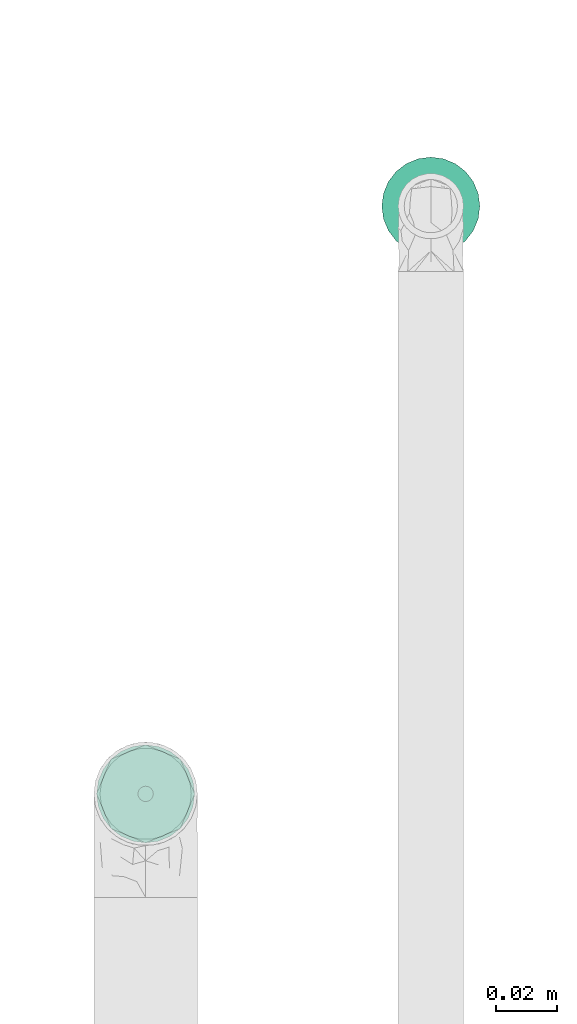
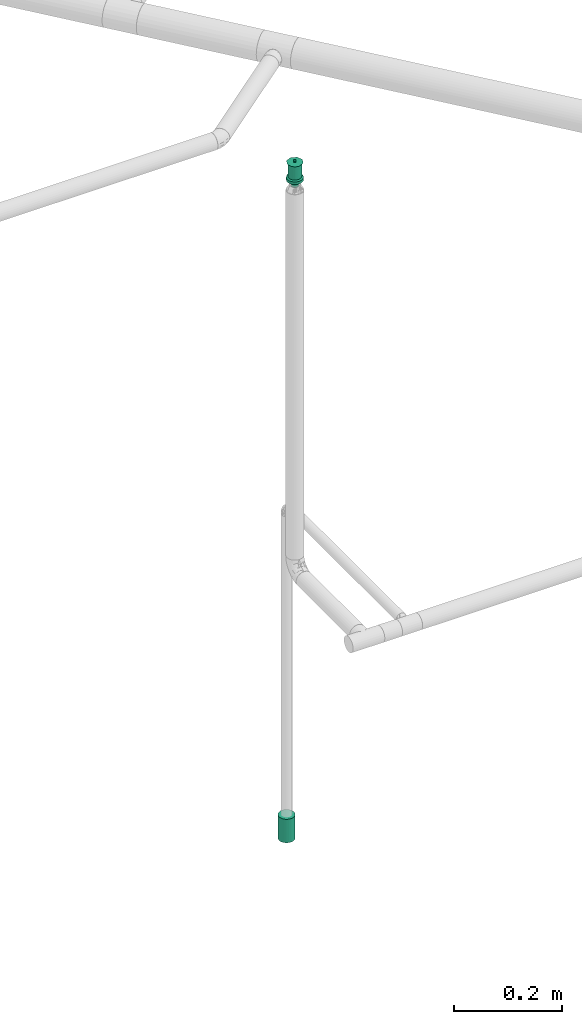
# One storey, part 69 of 94: 2 flow terminals.
"""IFC2X3 building model written with IfcOpenShell, lengths in millimetres."""

from ifc_helpers import new_model, entity, si_unit, converted_unit, derived_unit, direction, frame, origin_with_axes, place, context, subcontext, project, spatial, open_shell, surface_model, source, transform, mapped, type_object, element, save


model = new_model("IFC2X3")

# Units and contexts
model_context = context("Model", 3, precision=0.01, world=frame((0.0, 4.29681676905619e-09, 0.0)), true_north=direction((4.01073788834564e-13, 1.0)))
plan_context = context("Plan", 3, precision=0.01, world=frame((0.0, 4.29681676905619e-09, 0.0)), true_north=direction((4.01073788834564e-13, 1.0)))
body_context = subcontext(model_context, "Body", "Model", "MODEL_VIEW")
ifc_project = project(units=[converted_unit("PLANEANGLEUNIT", "DEGREE", entity("IfcPositiveLengthMeasure", 0.0174532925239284), si_unit("PLANEANGLEUNIT", "RADIAN"), dimensions=[0, 0, 0, 0, 0, 0, 0]), si_unit("AREAUNIT", "SQUARE_METRE"), si_unit("LENGTHUNIT", "METRE", prefix="MILLI"), si_unit("MASSUNIT", "GRAM", prefix="KILO"), si_unit("POWERUNIT", "WATT"), si_unit("PRESSUREUNIT", "PASCAL", prefix="KILO"), si_unit("FORCEUNIT", "NEWTON", prefix="KILO"), si_unit("ELECTRICVOLTAGEUNIT", "VOLT"), si_unit("ELECTRICCURRENTUNIT", "AMPERE"), si_unit("THERMODYNAMICTEMPERATUREUNIT", "DEGREE_CELSIUS"), si_unit("TIMEUNIT", "SECOND"), si_unit("VOLUMEUNIT", "CUBIC_METRE"), derived_unit("LINEARVELOCITYUNIT", [(si_unit("LENGTHUNIT", "METRE"), 1), (si_unit("TIMEUNIT", "SECOND"), -1)]), derived_unit("VOLUMETRICFLOWRATEUNIT", [(si_unit("VOLUMEUNIT", "CUBIC_METRE"), 1), (si_unit("TIMEUNIT", "SECOND"), -1)]), derived_unit("THERMALTRANSMITTANCEUNIT", [(si_unit("POWERUNIT", "WATT"), 1), (si_unit("THERMODYNAMICTEMPERATUREUNIT", "KELVIN"), -1), (si_unit("AREAUNIT", "SQUARE_METRE"), -1)]), derived_unit("SOUNDPRESSUREUNIT", [(si_unit("PRESSUREUNIT", "PASCAL"), 1)])], contexts=[model_context, plan_context])

# Site, building, storey
site_placement = place(None, frame((0.0, -4.29681676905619e-09, 0.0), z_axis=(0.0, 0.0, 1.0), x_axis=(1.0, 0.0, 0.0)))
site = spatial("IfcSite", under=ifc_project, at=site_placement, CompositionType="ELEMENT")
building_placement = place(site_placement, frame((0.0, 4.29681676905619e-09, 0.0), z_axis=(0.0, 0.0, 1.0), x_axis=(1.0, 0.0, 0.0)))
building = spatial("IfcBuilding", under=site, at=building_placement, Name="mc-building", CompositionType="ELEMENT")
storey_placement = place(building_placement, frame((0.0, 0.0, 210900.0), z_axis=(0.0, 0.0, 1.0), x_axis=(1.0, 0.0, 0.0)))
storey = spatial("IfcBuildingStorey", under=building, at=storey_placement, Name="Nivå F", CompositionType="ELEMENT", Elevation=210900.0)

# Flow terminals
fire_suppression_terminal_type_1 = type_object("IfcFireSuppressionTerminalType", Name="68DGR-STD-STÅENDE", PredefinedType="NOTDEFINED")
shared_shape_1 = source(origin_with_axes(), body_context, "Body", "SurfaceModel", [
    surface_model("IfcShellBasedSurfaceModel", [(3.36465, -12.55704, 51.0), (6.5, -11.25833, 51.0), (9.19239, -9.19239, 51.0), (12.55704, -3.36465, 51.0), (-11.25833, -6.5, 51.0), (11.25833, -6.5, 51.0), (-13.0, 0.0, 51.0), (0.0, -13.0, 51.0), (-6.5, -11.25833, 51.0), (-3.36465, -12.55704, 51.0), (-9.19239, -9.19239, 51.0), (-12.55704, -3.36465, 51.0), (13.0, 0.0, 51.0), (12.55704, 3.36465, 51.0), (11.25833, 6.5, 51.0), (9.19239, 9.19239, 51.0), (6.5, 11.25833, 51.0), (3.36465, 12.55704, 51.0), (0.0, 13.0, 51.0), (-3.36465, 12.55704, 51.0), (-12.55704, 3.36465, 51.0), (-9.19239, 9.19239, 51.0), (-11.25833, 6.5, 51.0), (-6.5, 11.25833, 51.0), (0.0, 13.0, 21.14766), (3.36465, 12.55704, 21.14766), (6.5, 11.25833, 21.14766), (-3.36465, 12.55704, 21.14766), (9.19239, 9.19239, 21.14766), (11.25833, 6.5, 21.14766), (12.55704, 3.36465, 21.14766), (-12.55704, 3.36465, 21.14766), (-11.25833, -6.5, 21.14766), (-9.19239, 9.19239, 21.14766), (-6.5, 11.25833, 21.14766), (-11.25833, 6.5, 21.14766), (-13.0, 0.0, 21.14766), (12.55704, -3.36465, 21.14766), (9.19239, -9.19239, 21.14766), (11.25833, -6.5, 21.14766), (6.5, -11.25833, 21.14766), (3.36465, -12.55704, 21.14766), (-6.5, -11.25833, 21.14766), (-9.19239, -9.19239, 21.14766), (-12.55704, -3.36465, 21.14766), (0.0, -13.0, 21.14766), (-3.36465, -12.55704, 21.14766), (13.0, 0.0, 21.14766), (7.24444, -1.94114, 0.1), (1.94114, -7.24444, 0.1), (3.75, -6.49519, 0.1), (5.3033, -5.3033, 0.1), (-5.3033, -5.3033, 0.1), (6.49519, -3.75, 0.1), (5.3033, 5.3033, 0.1), (0.0, -7.5, 0.1), (-3.75, -6.49519, 0.1), (-1.94114, -7.24444, 0.1), (-7.24444, -1.94114, 0.1), (-6.49519, -3.75, 0.1), (-7.24444, 1.94114, 0.1), (7.5, 0.0, 0.1), (6.49519, 3.75, 0.1), (-6.49519, 3.75, 0.1), (1.94114, 7.24444, 0.1), (0.0, 7.5, 0.1), (3.75, 6.49519, 0.1), (-7.5, 0.0, 0.1), (-5.3033, 5.3033, 0.1), (-1.94114, 7.24444, 0.1), (-3.75, 6.49519, 0.1), (7.24444, 1.94114, 0.1), (1.94114, 7.24444, -0.1), (-6.49519, 3.75, -0.1), (0.0, 7.5, -0.1), (5.3033, 5.3033, -0.1), (3.75, 6.49519, -0.1), (6.49519, 3.75, -0.1), (7.24444, 1.94114, -0.1), (-1.94114, 7.24444, -0.1), (-5.3033, 5.3033, -0.1), (-3.75, 6.49519, -0.1), (-7.24444, 1.94114, -0.1), (-7.24444, -1.94114, -0.1), (-7.5, 0.0, -0.1), (7.5, 0.0, -0.1), (7.24444, -1.94114, -0.1), (-5.3033, -5.3033, -0.1), (1.94114, -7.24444, -0.1), (6.49519, -3.75, -0.1), (5.3033, -5.3033, -0.1), (3.75, -6.49519, -0.1), (-6.49519, -3.75, -0.1), (-3.75, -6.49519, -0.1), (0.0, -7.5, -0.1), (-1.94114, -7.24444, -0.1), (0.0, -2.5, 51.0), (-2.5, 0.0, 51.0), (0.0, 2.5, 51.0), (2.5, 0.0, 51.0), (0.0, -16.0, 53.0), (11.31371, -11.31371, 53.0), (-11.31371, -11.31371, 53.0), (-16.0, 0.0, 53.0), (16.0, 0.0, 53.0), (11.31371, 11.31371, 53.0), (0.0, 16.0, 53.0), (-11.31371, 11.31371, 53.0), (1.25, -2.16506, 57.0), (0.0, -2.5, 57.0), (0.64705, -2.41481, 57.0), (2.41481, -0.64705, 57.0), (1.76777, -1.76777, 57.0), (-2.41481, -0.64705, 57.0), (-2.5, 0.0, 57.0), (2.16506, -1.25, 57.0), (-1.25, -2.16506, 57.0), (-0.64705, -2.41481, 57.0), (-1.76777, -1.76777, 57.0), (-2.16506, -1.25, 57.0), (2.5, 0.0, 57.0), (2.41481, 0.64705, 57.0), (2.16506, 1.25, 57.0), (1.76777, 1.76777, 57.0), (0.64705, 2.41481, 57.0), (1.25, 2.16506, 57.0), (-1.76777, 1.76777, 57.0), (0.0, 2.5, 57.0), (-2.16506, 1.25, 57.0), (-2.41481, 0.64705, 57.0), (-0.64705, 2.41481, 57.0), (-1.25, 2.16506, 57.0), (1.25, 2.16506, 51.0), (1.76777, 1.76777, 51.0), (1.15, 1.99186, 51.0), (0.59528, 2.22163, 51.0), (0.64705, 2.41481, 51.0), (0.0, 2.3, 51.0), (1.62635, 1.62635, 51.0), (2.41481, 0.64705, 51.0), (2.3, 0.0, 51.0), (2.22163, 0.59528, 51.0), (2.16506, 1.25, 51.0), (1.99186, 1.15, 51.0), (-0.59528, 2.22163, 51.0), (-0.64705, 2.41481, 51.0), (-1.15, 1.99186, 51.0), (-1.76777, 1.76777, 51.0), (-1.25, 2.16506, 51.0), (-1.62635, 1.62635, 51.0), (-1.99186, 1.15, 51.0), (-2.16506, 1.25, 51.0), (-2.22163, 0.59528, 51.0), (-2.41481, 0.64705, 51.0), (-2.3, 0.0, 51.0), (2.41481, -0.64705, 51.0), (2.22163, -0.59528, 51.0), (1.99186, -1.15, 51.0), (2.16506, -1.25, 51.0), (1.62635, -1.62635, 51.0), (1.76777, -1.76777, 51.0), (1.25, -2.16506, 51.0), (1.15, -1.99186, 51.0), (0.59528, -2.22163, 51.0), (0.64705, -2.41481, 51.0), (0.0, -2.3, 51.0), (-2.16506, -1.25, 51.0), (-1.99186, -1.15, 51.0), (-1.76777, -1.76777, 51.0), (-1.62635, -1.62635, 51.0), (-2.41481, -0.64705, 51.0), (-2.22163, -0.59528, 51.0), (-0.59528, -2.22163, 51.0), (-0.64705, -2.41481, 51.0), (-1.15, -1.99186, 51.0), (-1.25, -2.16506, 51.0), (1.62635, -1.62635, 56.8), (1.15, -1.99186, 56.8), (0.59528, -2.22163, 56.8), (0.0, -2.3, 56.8), (2.22163, 0.59528, 56.8), (1.99186, -1.15, 56.8), (2.22163, -0.59528, 56.8), (-0.59528, -2.22163, 56.8), (-1.15, -1.99186, 56.8), (-1.62635, -1.62635, 56.8), (-1.99186, -1.15, 56.8), (-2.22163, -0.59528, 56.8), (-1.99186, 1.15, 56.8), (2.3, 0.0, 56.8), (1.62635, 1.62635, 56.8), (1.99186, 1.15, 56.8), (1.15, 1.99186, 56.8), (0.0, 2.3, 56.8), (0.59528, 2.22163, 56.8), (-2.22163, 0.59528, 56.8), (-2.3, 0.0, 56.8), (-1.15, 1.99186, 56.8), (-0.59528, 2.22163, 56.8), (-1.62635, 1.62635, 56.8), (4.1411, -15.45481, 19.0), (8.0, -13.85641, 19.0), (11.31371, -11.31371, 19.0), (-8.0, -13.85641, 19.0), (15.45481, -4.1411, 19.0), (16.0, 0.0, 19.0), (13.85641, -8.0, 19.0), (0.0, -16.0, 19.0), (-4.1411, -15.45481, 19.0), (-13.85641, -8.0, 19.0), (-11.31371, -11.31371, 19.0), (-15.45481, -4.1411, 19.0), (15.45481, 4.1411, 19.0), (13.85641, 8.0, 19.0), (11.31371, 11.31371, 19.0), (-4.1411, 15.45481, 19.0), (8.0, 13.85641, 19.0), (4.1411, 15.45481, 19.0), (0.0, 16.0, 19.0), (-13.85641, 8.0, 19.0), (-15.45481, 4.1411, 19.0), (-16.0, 0.0, 19.0), (-11.31371, 11.31371, 19.0), (-8.0, 13.85641, 19.0), (0.0, 16.0, 13.0), (4.1411, 15.45481, 13.0), (8.0, 13.85641, 13.0), (-4.1411, 15.45481, 13.0), (11.31371, 11.31371, 13.0), (13.85641, 8.0, 13.0), (15.45481, 4.1411, 13.0), (-15.45481, -4.1411, 13.0), (-11.31371, 11.31371, 13.0), (-8.0, 13.85641, 13.0), (-13.85641, 8.0, 13.0), (-15.45481, 4.1411, 13.0), (-16.0, 0.0, 13.0), (4.1411, -15.45481, 13.0), (16.0, 0.0, 13.0), (15.45481, -4.1411, 13.0), (13.85641, -8.0, 13.0), (11.31371, -11.31371, 13.0), (8.0, -13.85641, 13.0), (-8.0, -13.85641, 13.0), (-13.85641, -8.0, 13.0), (-11.31371, -11.31371, 13.0), (0.0, -16.0, 13.0), (-4.1411, -15.45481, 13.0), (7.24444, -1.94114, 13.0), (1.94114, -7.24444, 13.0), (3.75, -6.49519, 13.0), (5.3033, -5.3033, 13.0), (-5.3033, -5.3033, 13.0), (6.49519, -3.75, 13.0), (5.3033, 5.3033, 13.0), (0.0, -7.5, 13.0), (-3.75, -6.49519, 13.0), (-1.94114, -7.24444, 13.0), (-7.24444, -1.94114, 13.0), (-6.49519, -3.75, 13.0), (-7.24444, 1.94114, 13.0), (7.5, 0.0, 13.0), (6.49519, 3.75, 13.0), (-6.49519, 3.75, 13.0), (1.94114, 7.24444, 13.0), (0.0, 7.5, 13.0), (3.75, 6.49519, 13.0), (-7.5, 0.0, 13.0), (-5.3033, 5.3033, 13.0), (-1.94114, 7.24444, 13.0), (-3.75, 6.49519, 13.0), (7.24444, 1.94114, 13.0), (3.75, 6.49519, 0.0), (5.3033, 5.3033, 0.0), (3.65, 6.32199, 0.0), (1.88938, 7.05126, 0.0), (0.0, 7.3, 0.0), (1.94114, 7.24444, 0.0), (0.0, 7.5, 0.0), (5.16188, 5.16188, 0.0), (7.24444, 1.94114, 0.0), (7.3, 0.0, 0.0), (7.05126, 1.88938, 0.0), (7.5, 0.0, 0.0), (6.49519, 3.75, 0.0), (6.32199, 3.65, 0.0), (-1.88938, 7.05126, 0.0), (-1.94114, 7.24444, 0.0), (-3.65, 6.32199, 0.0), (-5.3033, 5.3033, 0.0), (-3.75, 6.49519, 0.0), (-5.16188, 5.16188, 0.0), (-6.32199, 3.65, 0.0), (-6.49519, 3.75, 0.0), (-7.05126, 1.88938, 0.0), (-7.24444, 1.94114, 0.0), (-7.3, 0.0, 0.0), (-7.5, 0.0, 0.0), (7.24444, -1.94114, 0.0), (7.05126, -1.88938, 0.0), (6.32199, -3.65, 0.0), (6.49519, -3.75, 0.0), (5.16188, -5.16188, 0.0), (5.3033, -5.3033, 0.0), (3.75, -6.49519, 0.0), (3.65, -6.32199, 0.0), (1.88938, -7.05126, 0.0), (1.94114, -7.24444, 0.0), (0.0, -7.3, 0.0), (0.0, -7.5, 0.0), (-6.49519, -3.75, 0.0), (-6.32199, -3.65, 0.0), (-5.3033, -5.3033, 0.0), (-5.16188, -5.16188, 0.0), (-7.24444, -1.94114, 0.0), (-7.05126, -1.88938, 0.0), (-1.88938, -7.05126, 0.0), (-1.94114, -7.24444, 0.0), (-3.65, -6.32199, 0.0), (-3.75, -6.49519, 0.0), (1.88938, -7.05126, 12.8), (0.0, -7.3, 12.8), (3.65, -6.32199, 12.8), (5.16188, -5.16188, 12.8), (6.32199, -3.65, 12.8), (7.05126, 1.88938, 12.8), (7.05126, -1.88938, 12.8), (-5.16188, -5.16188, 12.8), (-1.88938, -7.05126, 12.8), (-3.65, -6.32199, 12.8), (-6.32199, -3.65, 12.8), (-7.05126, -1.88938, 12.8), (0.0, 7.3, 12.8), (7.3, 0.0, 12.8), (6.32199, 3.65, 12.8), (5.16188, 5.16188, 12.8), (3.65, 6.32199, 12.8), (1.88938, 7.05126, 12.8), (-6.32199, 3.65, 12.8), (-7.05126, 1.88938, 12.8), (-7.3, 0.0, 12.8), (-3.65, 6.32199, 12.8), (-1.88938, 7.05126, 12.8), (-5.16188, 5.16188, 12.8)], [open_shell([[[0, 1, 2]], [[0, 2, 3]], [[0, 3, 4]], [[3, 2, 5]], [[6, 4, 3]], [[7, 8, 9]], [[7, 0, 8]], [[8, 4, 10]], [[0, 4, 8]], [[4, 6, 11]], [[6, 3, 12]], [[13, 14, 15]], [[6, 13, 15]], [[16, 17, 18]], [[15, 16, 19]], [[18, 19, 16]], [[20, 21, 22]], [[20, 6, 15]], [[21, 19, 23]], [[19, 21, 20]], [[15, 19, 20]], [[13, 6, 12]], [[24, 25, 26]], [[27, 24, 26]], [[28, 29, 30]], [[26, 28, 31]], [[28, 32, 31]], [[27, 33, 34]], [[33, 27, 31]], [[33, 31, 35]], [[27, 26, 31]], [[31, 32, 36]], [[32, 28, 30]], [[32, 30, 37]], [[38, 37, 39]], [[38, 40, 41]], [[38, 41, 37]], [[32, 37, 41]], [[32, 42, 43]], [[44, 36, 32]], [[42, 45, 46]], [[42, 32, 41]], [[45, 42, 41]], [[30, 47, 37]], [[4, 32, 43]], [[8, 42, 46]], [[43, 42, 10]], [[9, 46, 45]], [[36, 11, 6]], [[11, 36, 44]], [[11, 44, 4]], [[44, 32, 4]], [[43, 10, 4]], [[8, 10, 42]], [[46, 9, 8]], [[45, 7, 9]], [[0, 41, 40]], [[38, 1, 40]], [[5, 39, 37]], [[38, 39, 2]], [[3, 37, 47]], [[41, 0, 7]], [[40, 1, 0]], [[38, 2, 1]], [[39, 5, 2]], [[3, 5, 37]], [[47, 12, 3]], [[41, 7, 45]], [[30, 13, 47]], [[29, 14, 30]], [[25, 24, 17]], [[15, 29, 28]], [[30, 14, 13]], [[13, 12, 47]], [[16, 26, 17]], [[16, 15, 28]], [[26, 25, 17]], [[15, 14, 29]], [[28, 26, 16]], [[24, 18, 17]], [[19, 27, 34]], [[33, 23, 34]], [[22, 35, 31]], [[33, 35, 21]], [[20, 31, 36]], [[27, 19, 18]], [[34, 23, 19]], [[33, 21, 23]], [[35, 22, 21]], [[20, 22, 31]], [[36, 6, 20]], [[27, 18, 24]], [[48, 49, 50]], [[48, 50, 51]], [[49, 48, 52]], [[48, 51, 53]], [[54, 52, 48]], [[55, 56, 57]], [[56, 55, 52]], [[52, 58, 59]], [[52, 55, 49]], [[52, 60, 58]], [[54, 48, 61]], [[62, 54, 61]], [[54, 63, 52]], [[64, 65, 54]], [[64, 54, 66]], [[63, 54, 65]], [[63, 60, 52]], [[67, 58, 60]], [[68, 69, 70]], [[69, 68, 63]], [[69, 63, 65]], [[71, 62, 61]], [[72, 73, 74]], [[75, 72, 76]], [[75, 77, 78]], [[72, 75, 73]], [[78, 73, 75]], [[79, 80, 81]], [[80, 79, 73]], [[74, 73, 79]], [[78, 82, 73]], [[82, 83, 84]], [[82, 78, 85]], [[86, 87, 85]], [[88, 86, 89]], [[90, 91, 88]], [[90, 88, 89]], [[87, 86, 88]], [[83, 87, 92]], [[83, 85, 87]], [[93, 94, 95]], [[94, 93, 87]], [[88, 94, 87]], [[85, 83, 82]], [[83, 58, 84]], [[92, 59, 83]], [[56, 87, 93]], [[92, 87, 52]], [[57, 93, 95]], [[83, 59, 58]], [[58, 67, 84]], [[57, 56, 93]], [[52, 87, 56]], [[52, 59, 92]], [[55, 57, 95]], [[95, 94, 55]], [[88, 49, 94]], [[91, 50, 88]], [[53, 90, 89]], [[91, 90, 51]], [[48, 89, 86]], [[91, 51, 50]], [[50, 49, 88]], [[61, 48, 86]], [[53, 89, 48]], [[53, 51, 90]], [[85, 61, 86]], [[94, 49, 55]], [[78, 71, 85]], [[77, 62, 78]], [[66, 75, 76]], [[77, 75, 54]], [[64, 76, 72]], [[78, 62, 71]], [[71, 61, 85]], [[64, 66, 76]], [[54, 75, 66]], [[54, 62, 77]], [[65, 64, 72]], [[72, 74, 65]], [[79, 69, 74]], [[81, 70, 79]], [[63, 80, 73]], [[81, 80, 68]], [[60, 73, 82]], [[81, 68, 70]], [[70, 69, 79]], [[67, 60, 82]], [[63, 73, 60]], [[63, 68, 80]], [[84, 67, 82]], [[74, 69, 65]], [[96, 97, 98]], [[98, 99, 96]], [[100, 101, 102]], [[103, 102, 101]], [[101, 104, 103]], [[104, 105, 106]], [[107, 103, 106]], [[106, 103, 104]], [[99, 98, 105]], [[105, 104, 99]], [[98, 106, 105]], [[98, 107, 106]], [[107, 98, 97]], [[103, 107, 97]], [[97, 96, 102]], [[102, 103, 97]], [[96, 100, 102]], [[96, 101, 100]], [[101, 96, 99]], [[104, 101, 99]], [[108, 109, 110]], [[111, 108, 112]], [[113, 108, 114]], [[111, 112, 115]], [[108, 111, 114]], [[109, 116, 117]], [[116, 109, 118]], [[118, 113, 119]], [[118, 109, 108]], [[108, 113, 118]], [[111, 120, 114]], [[121, 122, 123]], [[114, 121, 123]], [[114, 123, 124]], [[124, 123, 125]], [[126, 124, 127]], [[124, 128, 129]], [[129, 114, 124]], [[126, 130, 131]], [[128, 124, 126]], [[130, 126, 127]], [[121, 114, 120]], [[132, 133, 134]], [[132, 134, 135]], [[136, 135, 137]], [[135, 136, 132]], [[136, 137, 98]], [[134, 133, 138]], [[139, 140, 141]], [[140, 139, 99]], [[139, 141, 142]], [[138, 142, 143]], [[142, 138, 133]], [[143, 142, 141]], [[98, 144, 145]], [[98, 137, 144]], [[145, 144, 146]], [[147, 148, 149]], [[146, 148, 145]], [[149, 148, 146]], [[150, 151, 147]], [[151, 150, 152]], [[150, 147, 149]], [[153, 152, 154]], [[152, 153, 151]], [[153, 154, 97]], [[99, 155, 156]], [[156, 155, 157]], [[157, 158, 159]], [[158, 157, 155]], [[159, 158, 160]], [[160, 161, 162]], [[162, 161, 163]], [[163, 164, 165]], [[164, 163, 161]], [[165, 164, 96]], [[162, 159, 160]], [[166, 167, 168]], [[168, 167, 169]], [[167, 166, 170]], [[97, 171, 170]], [[170, 171, 167]], [[97, 154, 171]], [[172, 96, 173]], [[172, 173, 174]], [[169, 175, 168]], [[175, 169, 174]], [[175, 174, 173]], [[165, 96, 172]], [[156, 140, 99]], [[170, 113, 97]], [[166, 119, 170]], [[116, 168, 175]], [[166, 168, 118]], [[117, 175, 173]], [[170, 119, 113]], [[113, 114, 97]], [[117, 116, 175]], [[118, 168, 116]], [[118, 119, 166]], [[109, 117, 173]], [[173, 96, 109]], [[164, 110, 96]], [[161, 108, 164]], [[115, 160, 158]], [[161, 160, 112]], [[111, 158, 155]], [[161, 112, 108]], [[108, 110, 164]], [[120, 111, 155]], [[115, 158, 111]], [[115, 112, 160]], [[99, 120, 155]], [[96, 110, 109]], [[139, 121, 99]], [[142, 122, 139]], [[125, 133, 132]], [[142, 133, 123]], [[124, 132, 136]], [[139, 122, 121]], [[121, 120, 99]], [[124, 125, 132]], [[123, 133, 125]], [[123, 122, 142]], [[127, 124, 136]], [[136, 98, 127]], [[145, 130, 98]], [[148, 131, 145]], [[128, 147, 151]], [[148, 147, 126]], [[129, 151, 153]], [[148, 126, 131]], [[131, 130, 145]], [[114, 129, 153]], [[128, 151, 129]], [[128, 126, 147]], [[97, 114, 153]], [[98, 130, 127]], [[176, 177, 178]], [[176, 178, 179]], [[180, 176, 179]], [[181, 176, 182]], [[180, 182, 176]], [[183, 184, 179]], [[185, 179, 184]], [[186, 187, 185]], [[185, 187, 188]], [[179, 185, 188]], [[189, 182, 180]], [[190, 191, 180]], [[192, 190, 180]], [[193, 194, 192]], [[180, 193, 192]], [[188, 193, 180]], [[195, 188, 196]], [[196, 188, 187]], [[197, 198, 199]], [[188, 199, 198]], [[188, 198, 193]], [[180, 179, 188]], [[154, 187, 171]], [[171, 186, 167]], [[174, 169, 184]], [[185, 169, 167]], [[172, 174, 183]], [[187, 186, 171]], [[154, 196, 187]], [[174, 184, 183]], [[184, 169, 185]], [[167, 186, 185]], [[172, 183, 179]], [[179, 165, 172]], [[165, 178, 163]], [[163, 177, 162]], [[157, 159, 181]], [[176, 159, 162]], [[156, 157, 182]], [[177, 176, 162]], [[163, 178, 177]], [[156, 182, 189]], [[182, 157, 181]], [[159, 176, 181]], [[156, 189, 140]], [[179, 178, 165]], [[140, 180, 141]], [[141, 191, 143]], [[134, 138, 192]], [[190, 138, 143]], [[135, 134, 194]], [[180, 191, 141]], [[140, 189, 180]], [[134, 192, 194]], [[192, 138, 190]], [[143, 191, 190]], [[135, 194, 193]], [[193, 137, 135]], [[137, 198, 144]], [[144, 197, 146]], [[150, 149, 188]], [[199, 149, 146]], [[152, 150, 195]], [[197, 199, 146]], [[144, 198, 197]], [[152, 195, 196]], [[195, 150, 188]], [[149, 199, 188]], [[152, 196, 154]], [[193, 198, 137]], [[200, 201, 202]], [[203, 200, 202]], [[204, 205, 202]], [[204, 202, 206]], [[203, 202, 205]], [[207, 203, 208]], [[207, 200, 203]], [[203, 209, 210]], [[209, 203, 211]], [[205, 211, 203]], [[205, 212, 211]], [[212, 213, 214]], [[215, 212, 214]], [[216, 217, 218]], [[214, 216, 215]], [[218, 215, 216]], [[211, 219, 220]], [[221, 211, 220]], [[222, 215, 223]], [[215, 222, 219]], [[219, 211, 215]], [[211, 212, 215]], [[224, 225, 226]], [[227, 224, 226]], [[228, 229, 230]], [[227, 226, 228]], [[227, 228, 231]], [[227, 232, 233]], [[232, 227, 234]], [[234, 231, 235]], [[231, 234, 227]], [[235, 231, 236]], [[228, 230, 231]], [[237, 238, 239]], [[237, 239, 240]], [[241, 242, 237]], [[241, 237, 240]], [[238, 237, 243]], [[244, 243, 245]], [[243, 244, 231]], [[243, 246, 247]], [[243, 231, 238]], [[237, 246, 243]], [[238, 231, 230]], [[231, 211, 236]], [[244, 209, 231]], [[203, 245, 243]], [[244, 245, 210]], [[208, 243, 247]], [[231, 209, 211]], [[211, 221, 236]], [[208, 203, 243]], [[210, 245, 203]], [[210, 209, 244]], [[207, 208, 247]], [[247, 246, 207]], [[237, 200, 246]], [[242, 201, 237]], [[206, 241, 240]], [[242, 241, 202]], [[204, 240, 239]], [[242, 202, 201]], [[201, 200, 237]], [[205, 204, 239]], [[206, 240, 204]], [[206, 202, 241]], [[238, 205, 239]], [[246, 200, 207]], [[230, 212, 238]], [[229, 213, 230]], [[216, 228, 226]], [[229, 228, 214]], [[217, 226, 225]], [[230, 213, 212]], [[212, 205, 238]], [[217, 216, 226]], [[214, 228, 216]], [[214, 213, 229]], [[218, 217, 225]], [[225, 224, 218]], [[227, 215, 224]], [[233, 223, 227]], [[219, 232, 234]], [[233, 232, 222]], [[220, 234, 235]], [[233, 222, 223]], [[223, 215, 227]], [[221, 220, 235]], [[219, 234, 220]], [[219, 222, 232]], [[236, 221, 235]], [[224, 215, 218]], [[248, 249, 250]], [[248, 250, 251]], [[249, 248, 252]], [[248, 251, 253]], [[254, 252, 248]], [[255, 256, 257]], [[256, 255, 252]], [[252, 258, 259]], [[252, 255, 249]], [[252, 260, 258]], [[254, 248, 261]], [[262, 254, 261]], [[254, 263, 252]], [[264, 265, 254]], [[264, 254, 266]], [[263, 254, 265]], [[263, 260, 252]], [[267, 258, 260]], [[268, 269, 270]], [[269, 268, 263]], [[269, 263, 265]], [[271, 262, 261]], [[272, 273, 274]], [[272, 274, 275]], [[276, 277, 275]], [[277, 276, 278]], [[275, 277, 272]], [[274, 273, 279]], [[280, 281, 282]], [[281, 280, 283]], [[280, 282, 284]], [[279, 284, 285]], [[284, 279, 273]], [[285, 284, 282]], [[278, 286, 287]], [[287, 286, 288]], [[289, 290, 291]], [[288, 290, 287]], [[288, 291, 290]], [[278, 276, 286]], [[292, 293, 289]], [[293, 292, 294]], [[292, 289, 291]], [[295, 294, 296]], [[294, 295, 293]], [[295, 296, 297]], [[283, 298, 299]], [[299, 298, 300]], [[300, 301, 302]], [[301, 300, 298]], [[302, 301, 303]], [[303, 304, 305]], [[305, 304, 306]], [[306, 307, 308]], [[307, 306, 304]], [[308, 307, 309]], [[305, 302, 303]], [[310, 311, 312]], [[312, 311, 313]], [[311, 310, 314]], [[297, 315, 314]], [[314, 315, 311]], [[297, 296, 315]], [[316, 309, 317]], [[316, 317, 318]], [[313, 319, 312]], [[313, 318, 319]], [[319, 318, 317]], [[308, 309, 316]], [[299, 281, 283]], [[314, 258, 297]], [[310, 259, 314]], [[256, 312, 319]], [[310, 312, 252]], [[257, 319, 317]], [[314, 259, 258]], [[258, 267, 297]], [[257, 256, 319]], [[252, 312, 256]], [[252, 259, 310]], [[255, 257, 317]], [[317, 309, 255]], [[307, 249, 309]], [[304, 250, 307]], [[253, 303, 301]], [[304, 303, 251]], [[248, 301, 298]], [[304, 251, 250]], [[250, 249, 307]], [[261, 248, 298]], [[253, 301, 248]], [[253, 251, 303]], [[283, 261, 298]], [[309, 249, 255]], [[280, 271, 283]], [[284, 262, 280]], [[266, 273, 272]], [[284, 273, 254]], [[264, 272, 277]], [[280, 262, 271]], [[271, 261, 283]], [[264, 266, 272]], [[254, 273, 266]], [[254, 262, 284]], [[265, 264, 277]], [[277, 278, 265]], [[287, 269, 278]], [[290, 270, 287]], [[263, 289, 293]], [[290, 289, 268]], [[260, 293, 295]], [[290, 268, 270]], [[270, 269, 287]], [[267, 260, 295]], [[263, 293, 260]], [[263, 268, 289]], [[297, 267, 295]], [[278, 269, 265]], [[320, 321, 322]], [[323, 322, 324]], [[325, 326, 322]], [[324, 322, 326]], [[322, 327, 325]], [[328, 329, 321]], [[327, 321, 329]], [[330, 331, 327]], [[322, 321, 327]], [[331, 332, 327]], [[326, 325, 333]], [[334, 325, 332]], [[335, 334, 336]], [[332, 337, 336]], [[334, 332, 336]], [[331, 338, 332]], [[339, 338, 340]], [[340, 338, 331]], [[341, 342, 343]], [[332, 338, 343]], [[332, 343, 342]], [[332, 325, 327]], [[296, 331, 315]], [[315, 330, 311]], [[318, 313, 329]], [[327, 313, 311]], [[316, 318, 328]], [[331, 330, 315]], [[296, 340, 331]], [[318, 329, 328]], [[329, 313, 327]], [[311, 330, 327]], [[316, 328, 321]], [[321, 308, 316]], [[308, 320, 306]], [[306, 322, 305]], [[300, 302, 324]], [[323, 302, 305]], [[299, 300, 326]], [[322, 323, 305]], [[306, 320, 322]], [[299, 326, 333]], [[326, 300, 324]], [[302, 323, 324]], [[299, 333, 281]], [[321, 320, 308]], [[281, 325, 282]], [[282, 334, 285]], [[274, 279, 336]], [[335, 279, 285]], [[275, 274, 337]], [[325, 334, 282]], [[281, 333, 325]], [[274, 336, 337]], [[336, 279, 335]], [[285, 334, 335]], [[275, 337, 332]], [[332, 276, 275]], [[276, 342, 286]], [[286, 341, 288]], [[292, 291, 338]], [[343, 291, 288]], [[294, 292, 339]], [[341, 343, 288]], [[286, 342, 341]], [[294, 339, 340]], [[339, 292, 338]], [[291, 343, 338]], [[294, 340, 296]], [[332, 342, 276]]])]),
])
flow_terminal_1_placement = place(storey_placement, frame((727222.70412, 439239.73983, 4367.0), z_axis=(0.0, 0.0, 1.0), x_axis=(1.0, 0.0, 0.0)))
element("IfcFlowTerminal", 1, at=flow_terminal_1_placement, inside=storey, type_object=fire_suppression_terminal_type_1, Name="68DGR-STD-STÅENDE", context=body_context, shape_type="MappedRepresentation", body=[
    mapped(shared_shape_1, transform((0.0, 0.0, 0.0), scale=1.0)),
])
fire_suppression_terminal_type_2 = type_object("IfcFireSuppressionTerminalType", Name="SP-15-K80-68DGR-STD-HIMLING", PredefinedType="NOTDEFINED")
shared_shape_2 = source(origin_with_axes(), body_context, "Body", "SurfaceModel", [
    surface_model("IfcShellBasedSurfaceModel", [(4.1411, -15.45481, 53.0), (8.0, -13.85641, 53.0), (11.31371, -11.31371, 53.0), (-8.0, -13.85641, 53.0), (15.45481, -4.1411, 53.0), (16.0, 0.0, 53.0), (13.85641, -8.0, 53.0), (0.0, -16.0, 53.0), (-4.1411, -15.45481, 53.0), (-13.85641, -8.0, 53.0), (-11.31371, -11.31371, 53.0), (-15.45481, -4.1411, 53.0), (15.45481, 4.1411, 53.0), (13.85641, 8.0, 53.0), (11.31371, 11.31371, 53.0), (-4.1411, 15.45481, 53.0), (8.0, 13.85641, 53.0), (4.1411, 15.45481, 53.0), (0.0, 16.0, 53.0), (-13.85641, 8.0, 53.0), (-15.45481, 4.1411, 53.0), (-16.0, 0.0, 53.0), (-11.31371, 11.31371, 53.0), (-8.0, 13.85641, 53.0), (0.0, 16.0, 0.0), (4.1411, 15.45481, 0.0), (8.0, 13.85641, 0.0), (-4.1411, 15.45481, 0.0), (11.31371, 11.31371, 0.0), (13.85641, 8.0, 0.0), (15.45481, 4.1411, 0.0), (-15.45481, -4.1411, 0.0), (-11.31371, 11.31371, 0.0), (-8.0, 13.85641, 0.0), (-13.85641, 8.0, 0.0), (-15.45481, 4.1411, 0.0), (-16.0, 0.0, 0.0), (4.1411, -15.45481, 0.0), (16.0, 0.0, 0.0), (15.45481, -4.1411, 0.0), (13.85641, -8.0, 0.0), (11.31371, -11.31371, 0.0), (8.0, -13.85641, 0.0), (-8.0, -13.85641, 0.0), (-13.85641, -8.0, 0.0), (-11.31371, -11.31371, 0.0), (0.0, -16.0, 0.0), (-4.1411, -15.45481, 0.0)], [open_shell([[[0, 1, 2]], [[3, 0, 2]], [[4, 5, 2]], [[4, 2, 6]], [[3, 2, 5]], [[7, 3, 8]], [[7, 0, 3]], [[3, 9, 10]], [[9, 3, 11]], [[5, 11, 3]], [[5, 12, 11]], [[12, 13, 14]], [[15, 12, 14]], [[16, 17, 18]], [[14, 16, 15]], [[18, 15, 16]], [[11, 19, 20]], [[21, 11, 20]], [[22, 15, 23]], [[15, 22, 19]], [[19, 11, 15]], [[11, 12, 15]], [[24, 25, 26]], [[27, 24, 26]], [[28, 29, 30]], [[27, 26, 28]], [[27, 28, 31]], [[27, 32, 33]], [[32, 27, 34]], [[34, 31, 35]], [[31, 34, 27]], [[35, 31, 36]], [[28, 30, 31]], [[37, 38, 39]], [[37, 39, 40]], [[41, 42, 37]], [[41, 37, 40]], [[38, 37, 43]], [[44, 43, 45]], [[43, 44, 31]], [[43, 46, 47]], [[43, 31, 38]], [[37, 46, 43]], [[38, 31, 30]], [[11, 31, 44]], [[45, 9, 44]], [[3, 43, 47]], [[45, 43, 10]], [[8, 47, 46]], [[31, 21, 36]], [[31, 11, 21]], [[44, 9, 11]], [[45, 10, 9]], [[3, 10, 43]], [[47, 8, 3]], [[46, 7, 8]], [[0, 37, 42]], [[41, 1, 42]], [[6, 40, 39]], [[41, 40, 2]], [[4, 39, 38]], [[37, 0, 7]], [[42, 1, 0]], [[41, 2, 1]], [[40, 6, 2]], [[4, 6, 39]], [[38, 5, 4]], [[37, 7, 46]], [[12, 38, 30]], [[13, 30, 29]], [[16, 26, 25]], [[17, 25, 24]], [[30, 13, 12]], [[12, 5, 38]], [[28, 14, 13]], [[28, 26, 14]], [[14, 26, 16]], [[25, 17, 16]], [[28, 13, 29]], [[24, 18, 17]], [[15, 27, 33]], [[32, 23, 33]], [[19, 34, 35]], [[32, 34, 22]], [[20, 35, 36]], [[27, 15, 18]], [[33, 23, 15]], [[32, 22, 23]], [[34, 19, 22]], [[20, 19, 35]], [[36, 21, 20]], [[27, 18, 24]]])]),
])
flow_terminal_2_placement = place(storey_placement, frame((727315.79619, 439431.58279, 2800.0), z_axis=(0.0, 0.0, -1.0), x_axis=(-1.0, 0.0, 0.0)))
element("IfcFlowTerminal", 2, at=flow_terminal_2_placement, inside=storey, type_object=fire_suppression_terminal_type_2, Name="SP-15-K80-68DGR-STD-HIMLING", context=body_context, shape_type="MappedRepresentation", body=[
    mapped(shared_shape_2, transform((0.0, 0.0, 0.0), scale=1.0)),
])

save(model, "model.ifc")
